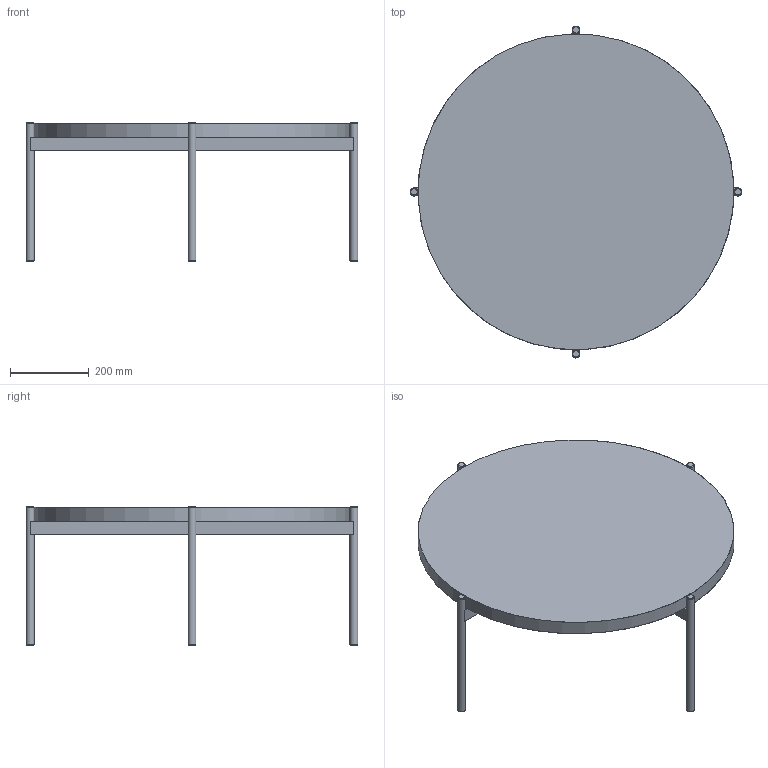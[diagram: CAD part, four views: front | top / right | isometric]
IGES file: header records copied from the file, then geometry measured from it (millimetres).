
Global section: file name: \\server2\Datos\PROYECTOS\2022\DOOS - Stand Feria H; native system: Rhinoceros ( Nov 10 2020 ); preprocessor: Trout Lake IGES 012 Nov 10 2020; date: 220818.060443; units: millimetre
Bounding box: 840 x 840 x 352 mm (x, y, z)
Surface area: 1367133.5 mm2 (no closed solid volume)
Topology: 0 solids, 0 shells, 35 faces, 131 edges, 118 vertices
Faces by surface type: bspline 35
